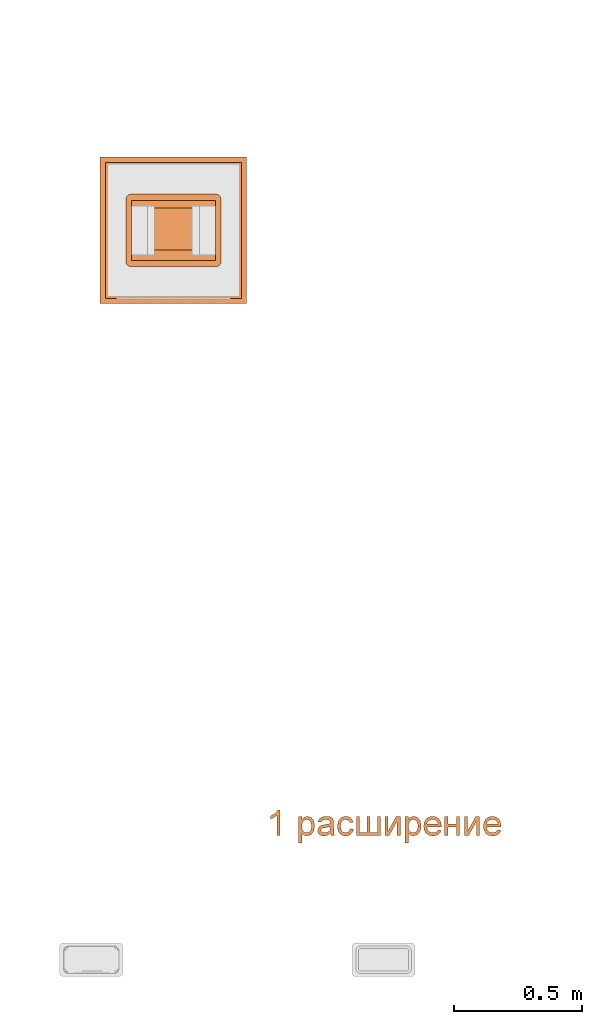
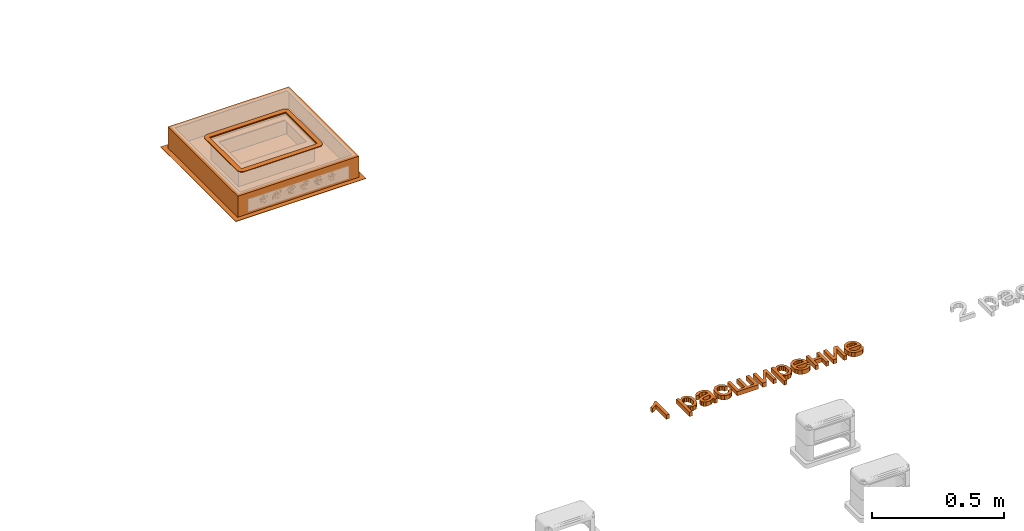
# One storey, part 55 of 87: 3 proxies.
"""IFC2X3 building model written with IfcOpenShell, lengths in millimetres."""

from ifc_helpers import new_model, entity, si_unit, converted_unit, derived_unit, direction, frame, frame_2d, origin, origin_2d_with_axis, place, context, subcontext, project, spatial, polyline, circle_curve, parameter, trimmed, segment, composite_curve, rectangle, outline, extrude, source, transform, mapped, type_object, type_shapes, element, save


model = new_model("IFC2X3")

# Units and contexts
model_context = context("Model", 3, precision=0.01, world=origin(), true_north=direction((6.12303176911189e-17, 1.0)))
body_context = subcontext(model_context, "Body", "Model", "MODEL_VIEW")
ifc_project = project(units=[si_unit("LENGTHUNIT", "METRE", prefix="MILLI"), si_unit("AREAUNIT", "SQUARE_METRE"), si_unit("VOLUMEUNIT", "CUBIC_METRE"), converted_unit("PLANEANGLEUNIT", "DEGREE", entity("IfcRatioMeasure", 0.0174532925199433), si_unit("PLANEANGLEUNIT", "RADIAN"), dimensions=[0, 0, 0, 0, 0, 0, 0]), si_unit("MASSUNIT", "GRAM", prefix="KILO"), derived_unit("MASSDENSITYUNIT", [(si_unit("MASSUNIT", "GRAM", prefix="KILO"), 1), (si_unit("LENGTHUNIT", "METRE"), -3)]), si_unit("TIMEUNIT", "SECOND"), si_unit("FREQUENCYUNIT", "HERTZ"), si_unit("THERMODYNAMICTEMPERATUREUNIT", "DEGREE_CELSIUS"), derived_unit("THERMALTRANSMITTANCEUNIT", [(si_unit("MASSUNIT", "GRAM", prefix="KILO"), 1), (si_unit("THERMODYNAMICTEMPERATUREUNIT", "KELVIN"), -1), (si_unit("TIMEUNIT", "SECOND"), -3)]), derived_unit("VOLUMETRICFLOWRATEUNIT", [(si_unit("LENGTHUNIT", "METRE"), 3), (si_unit("TIMEUNIT", "SECOND"), -1)]), si_unit("ELECTRICCURRENTUNIT", "AMPERE"), si_unit("ELECTRICVOLTAGEUNIT", "VOLT"), si_unit("POWERUNIT", "WATT"), si_unit("FORCEUNIT", "NEWTON", prefix="KILO"), si_unit("ILLUMINANCEUNIT", "LUX"), si_unit("LUMINOUSFLUXUNIT", "LUMEN"), si_unit("LUMINOUSINTENSITYUNIT", "CANDELA"), derived_unit("USERDEFINED", [(si_unit("MASSUNIT", "GRAM", prefix="KILO"), -1), (si_unit("LENGTHUNIT", "METRE"), -2), (si_unit("TIMEUNIT", "SECOND"), 3), (si_unit("LUMINOUSFLUXUNIT", "LUMEN"), 1)]), derived_unit("LINEARVELOCITYUNIT", [(si_unit("LENGTHUNIT", "METRE"), 1), (si_unit("TIMEUNIT", "SECOND"), -1)]), si_unit("PRESSUREUNIT", "PASCAL"), derived_unit("USERDEFINED", [(si_unit("LENGTHUNIT", "METRE"), -2), (si_unit("MASSUNIT", "GRAM", prefix="KILO"), 1), (si_unit("TIMEUNIT", "SECOND"), -2)])], contexts=[model_context])

# Site, building, storey
site_placement = place(None, origin())
site = spatial("IfcSite", under=ifc_project, at=site_placement, Name="Default", CompositionType="ELEMENT")
building_placement = place(site_placement, origin())
building = spatial("IfcBuilding", under=site, at=building_placement, Name="Наименование здания", CompositionType="ELEMENT")
storey_placement = place(building_placement, origin())
storey = spatial("IfcBuildingStorey", under=building, at=storey_placement, Name="Этаж 01", CompositionType="ELEMENT", Elevation=0.0)

# Proxies
building_element_proxy_type_1 = type_object("IfcBuildingElementProxyType", Name="Лючок", PredefinedType="NOTDEFINED")
shared_shape_1 = source(origin(), body_context, "Body", "SweptSolid", [
    extrude(outline(composite_curve([segment(polyline([(-164.597281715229, -119.98320373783), (164.597281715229, -119.98320373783)]), True, "CONTINUOUS"), segment(trimmed(circle_curve(frame_2d((164.597281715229, -117.575646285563), x_axis=(-1.0, 0.0)), 2.40755745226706), [parameter(90.0000000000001)], [parameter(179.999999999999)], True, "PARAMETER"), True, "CONTINUOUS"), segment(polyline([(167.004839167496, -117.575646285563), (167.004839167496, 117.575646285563)]), True, "CONTINUOUS"), segment(trimmed(circle_curve(frame_2d((164.597281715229, 117.575646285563), x_axis=(-1.0, 0.0)), 2.40755745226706), [parameter(180.0)], [parameter(270.0)], True, "PARAMETER"), True, "CONTINUOUS"), segment(polyline([(164.597281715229, 119.98320373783), (-164.597281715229, 119.98320373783)]), True, "CONTINUOUS"), segment(trimmed(circle_curve(frame_2d((-164.597281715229, 117.575646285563), x_axis=(-1.0, 0.0)), 2.40755745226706), [parameter(270.0)], [parameter(359.999999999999)], True, "PARAMETER"), True, "CONTINUOUS"), segment(polyline([(-167.004839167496, 117.575646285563), (-167.004839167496, -117.575646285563)]), True, "CONTINUOUS"), segment(trimmed(circle_curve(frame_2d((-164.597281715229, -117.575646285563), x_axis=(-1.0, 0.0)), 2.40755745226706), [parameter(0.0)], [parameter(90.0000000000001)], True, "PARAMETER"), True, "CONTINUOUS")], self_intersect=False), holes=[composite_curve([segment(trimmed(circle_curve(frame_2d((-161.597281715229, -114.575646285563), x_axis=(-1.0, 0.0)), 2.40755745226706), [parameter(4.07110999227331e-13)], [parameter(90.0000000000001)], True, "PARAMETER"), False, "CONTINUOUS"), segment(polyline([(-164.004839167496, -114.575646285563), (-164.004839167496, 114.575646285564)]), True, "CONTINUOUS"), segment(trimmed(circle_curve(frame_2d((-161.597281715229, 114.575646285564), x_axis=(-1.0, 0.0)), 2.40755745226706), [parameter(269.999999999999)], [parameter(8.14221998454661e-13)], True, "PARAMETER"), False, "CONTINUOUS"), segment(polyline([(-161.597281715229, 116.983203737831), (161.597281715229, 116.983203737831)]), True, "CONTINUOUS"), segment(trimmed(circle_curve(frame_2d((161.597281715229, 114.575646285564), x_axis=(-1.0, 0.0)), 2.40755745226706), [parameter(180.000000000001)], [parameter(270.000000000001)], True, "PARAMETER"), False, "CONTINUOUS"), segment(polyline([(164.004839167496, 114.575646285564), (164.004839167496, -114.575646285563)]), True, "CONTINUOUS"), segment(trimmed(circle_curve(frame_2d((161.597281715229, -114.575646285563), x_axis=(-1.0, 0.0)), 2.40755745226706), [parameter(90.0000000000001)], [parameter(180.0)], True, "PARAMETER"), False, "CONTINUOUS"), segment(polyline([(161.597281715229, -116.98320373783), (-161.597281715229, -116.98320373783)]), True, "CONTINUOUS")], self_intersect=False)]), frame((0.0, 0.0, -10.0), z_axis=(0.0, 0.0, 1.0), x_axis=(-1.0, 0.0, 0.0)), (0.0, 0.0, 1.0), 10.0000000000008),
    extrude(outline(composite_curve([segment(polyline([(-164.597281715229, -105.48320373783), (164.597281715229, -105.48320373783)]), True, "CONTINUOUS"), segment(trimmed(circle_curve(frame_2d((164.597281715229, -103.075646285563), x_axis=(-1.0, 0.0)), 2.40755745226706), [parameter(90.0000000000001)], [parameter(180.0)], True, "PARAMETER"), True, "CONTINUOUS"), segment(polyline([(167.004839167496, -103.075646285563), (167.004839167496, 103.075646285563)]), True, "CONTINUOUS"), segment(trimmed(circle_curve(frame_2d((164.597281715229, 103.075646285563), x_axis=(-1.0, 0.0)), 2.40755745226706), [parameter(180.000000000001)], [parameter(270.000000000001)], True, "PARAMETER"), True, "CONTINUOUS"), segment(polyline([(164.597281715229, 105.48320373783), (-164.597281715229, 105.48320373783)]), True, "CONTINUOUS"), segment(trimmed(circle_curve(frame_2d((-164.597281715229, 103.075646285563), x_axis=(-1.0, 0.0)), 2.40755745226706), [parameter(270.000000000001)], [parameter(360.0)], True, "PARAMETER"), True, "CONTINUOUS"), segment(polyline([(-167.004839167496, 103.075646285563), (-167.004839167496, -103.075646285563)]), True, "CONTINUOUS"), segment(trimmed(circle_curve(frame_2d((-164.597281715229, -103.075646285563), x_axis=(-1.0, 0.0)), 2.40755745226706), [parameter(0.0)], [parameter(90.0000000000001)], True, "PARAMETER"), True, "CONTINUOUS")], self_intersect=False), holes=[composite_curve([segment(trimmed(circle_curve(frame_2d((-161.597281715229, -100.075646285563), x_axis=(-1.0, 0.0)), 2.40755745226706), [parameter(4.07110999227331e-13)], [parameter(90.0000000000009)], True, "PARAMETER"), False, "CONTINUOUS"), segment(polyline([(-164.004839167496, -100.075646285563), (-164.004839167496, 100.075646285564)]), True, "CONTINUOUS"), segment(trimmed(circle_curve(frame_2d((-161.597281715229, 100.075646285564), x_axis=(-1.0, 0.0)), 2.40755745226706), [parameter(269.999999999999)], [parameter(4.07110999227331e-13)], True, "PARAMETER"), False, "CONTINUOUS"), segment(polyline([(-161.597281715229, 102.483203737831), (161.597281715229, 102.48320373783)]), True, "CONTINUOUS"), segment(trimmed(circle_curve(frame_2d((161.597281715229, 100.075646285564), x_axis=(-1.0, 0.0)), 2.40755745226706), [parameter(180.000000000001)], [parameter(270.0)], True, "PARAMETER"), False, "CONTINUOUS"), segment(polyline([(164.004839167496, 100.075646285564), (164.004839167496, -100.075646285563)]), True, "CONTINUOUS"), segment(trimmed(circle_curve(frame_2d((161.597281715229, -100.075646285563), x_axis=(-1.0, 0.0)), 2.40755745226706), [parameter(90.0000000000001)], [parameter(180.0)], True, "PARAMETER"), False, "CONTINUOUS"), segment(polyline([(161.597281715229, -102.48320373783), (-161.597281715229, -102.48320373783)]), True, "CONTINUOUS")], self_intersect=False)]), frame((0.0, 5.49999999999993, -92.5000000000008), z_axis=(0.0, 0.0, 1.0), x_axis=(-1.0, 0.0, 0.0)), (0.0, 0.0, 1.0), 85.5),
    extrude(outline(composite_curve([segment(polyline([(-161.597281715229, -102.483203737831), (161.597281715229, -102.483203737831)]), True, "CONTINUOUS"), segment(trimmed(circle_curve(frame_2d((161.597281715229, -100.075646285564), x_axis=(-1.0, 0.0)), 2.40755745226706), [parameter(90.0000000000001)], [parameter(179.999999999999)], True, "PARAMETER"), True, "CONTINUOUS"), segment(polyline([(164.004839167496, -100.075646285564), (164.004839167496, 100.075646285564)]), True, "CONTINUOUS"), segment(trimmed(circle_curve(frame_2d((161.597281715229, 100.075646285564), x_axis=(-1.0, 0.0)), 2.40755745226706), [parameter(180.000000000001)], [parameter(270.0)], True, "PARAMETER"), True, "CONTINUOUS"), segment(polyline([(161.597281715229, 102.48320373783), (-161.597281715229, 102.483203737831)]), True, "CONTINUOUS"), segment(trimmed(circle_curve(frame_2d((-161.597281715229, 100.075646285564), x_axis=(-1.0, 0.0)), 2.40755745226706), [parameter(270.0)], [parameter(360.0)], True, "PARAMETER"), True, "CONTINUOUS"), segment(polyline([(-164.004839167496, 100.075646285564), (-164.004839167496, -100.075646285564)]), True, "CONTINUOUS"), segment(trimmed(circle_curve(frame_2d((-161.597281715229, -100.075646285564), x_axis=(-1.0, 0.0)), 2.40755745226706), [parameter(0.0)], [parameter(90.0000000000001)], True, "PARAMETER"), True, "CONTINUOUS")], self_intersect=False)), frame((0.0, 5.49999999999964, -92.5000000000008), z_axis=(0.0, 0.0, 1.0), x_axis=(-1.0, 0.0, 0.0)), (0.0, 0.0, 1.0), 2.99999999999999),
    extrude(outline(composite_curve([segment(polyline([(-164.004839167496, -141.48320373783), (164.004839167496, -141.48320373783)]), True, "CONTINUOUS"), segment(trimmed(circle_curve(frame_2d((164.004839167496, -119.98320373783), x_axis=(-1.0, 0.0)), 21.4999999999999), [parameter(90.0000000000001)], [parameter(180.0)], True, "PARAMETER"), True, "CONTINUOUS"), segment(polyline([(185.504839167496, -119.98320373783), (185.504839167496, 119.983203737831)]), True, "CONTINUOUS"), segment(trimmed(circle_curve(frame_2d((164.004839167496, 119.98320373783), x_axis=(-1.0, 0.0)), 21.4999999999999), [parameter(180.0)], [parameter(270.0)], True, "PARAMETER"), True, "CONTINUOUS"), segment(polyline([(164.004839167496, 141.48320373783), (-164.004839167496, 141.48320373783)]), True, "CONTINUOUS"), segment(trimmed(circle_curve(frame_2d((-164.004839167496, 119.98320373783), x_axis=(-1.0, 0.0)), 21.4999999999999), [parameter(270.0)], [parameter(360.0)], True, "PARAMETER"), True, "CONTINUOUS"), segment(polyline([(-185.504839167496, 119.98320373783), (-185.504839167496, -119.983203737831)]), True, "CONTINUOUS"), segment(trimmed(circle_curve(frame_2d((-164.004839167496, -119.98320373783), x_axis=(-1.0, 0.0)), 21.4999999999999), [parameter(0.0)], [parameter(90.0)], True, "PARAMETER"), True, "CONTINUOUS")], self_intersect=False), holes=[polyline([(-166.004839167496, -119.98320373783), (-166.004839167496, 119.98320373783), (166.004839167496, 119.98320373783), (166.004839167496, -119.98320373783), (-166.004839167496, -119.98320373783)])]), frame((0.0, 0.0, 0.0), z_axis=(0.0, 0.0, 1.0), x_axis=(-1.0, 0.0, 0.0)), (0.0, 0.0, 1.0), 2.99999999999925),
    extrude(outline(composite_curve([segment(polyline([(-161.597281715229, -116.98320373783), (161.597281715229, -116.98320373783)]), True, "CONTINUOUS"), segment(trimmed(circle_curve(frame_2d((161.597281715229, -114.575646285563), x_axis=(-1.0, 0.0)), 2.40755745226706), [parameter(89.9999999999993)], [parameter(180.0)], True, "PARAMETER"), True, "CONTINUOUS"), segment(polyline([(164.004839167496, -114.575646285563), (164.004839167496, 114.575646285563)]), True, "CONTINUOUS"), segment(trimmed(circle_curve(frame_2d((161.597281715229, 114.575646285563), x_axis=(-1.0, 0.0)), 2.40755745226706), [parameter(180.0)], [parameter(269.999999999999)], True, "PARAMETER"), True, "CONTINUOUS"), segment(polyline([(161.597281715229, 116.98320373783), (-161.597281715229, 116.98320373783)]), True, "CONTINUOUS"), segment(trimmed(circle_curve(frame_2d((-161.597281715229, 114.575646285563), x_axis=(-1.0, 0.0)), 2.40755745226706), [parameter(269.999999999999)], [parameter(360.0)], True, "PARAMETER"), True, "CONTINUOUS"), segment(polyline([(-164.004839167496, 114.575646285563), (-164.004839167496, -114.575646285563)]), True, "CONTINUOUS"), segment(trimmed(circle_curve(frame_2d((-161.597281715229, -114.575646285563), x_axis=(-1.0, 0.0)), 2.40755745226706), [parameter(0.0)], [parameter(90.0000000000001)], True, "PARAMETER"), True, "CONTINUOUS")], self_intersect=False), holes=[polyline([(-144.004839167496, -87.9832037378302), (-144.004839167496, 76.9832037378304), (144.004839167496, 76.9832037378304), (144.004839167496, -87.9832037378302), (-144.004839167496, -87.9832037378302)])]), frame((0.0, 0.0, -10.0), z_axis=(0.0, 0.0, 1.0), x_axis=(-1.0, 0.0, 0.0)), (0.0, 0.0, 1.0), 3.00000000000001),
])
type_shapes(building_element_proxy_type_1, [shared_shape_1])
proxy_1_placement = place(storey_placement, frame((25863.7191062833, 3878.38645848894, 0.0)))
element("IfcBuildingElementProxy", 1, at=proxy_1_placement, inside=storey, type_object=building_element_proxy_type_1, Name="КНС_ЛючокНапольныйНа12Модулей_ILF_DKC:Лючок", ObjectType="Лючок", context=body_context, shape_type="MappedRepresentation", body=[
    mapped(shared_shape_1, transform((0.0, 0.0, 0.0), scale=1.0)),
])
building_element_proxy_type_2 = type_object("IfcBuildingElementProxyType", Name="Опалубка для лючков металлическая", PredefinedType="NOTDEFINED")
shared_shape_2 = source(origin(), body_context, "Body", "SweptSolid", [
    extrude(outline(polyline([(-265.0, -265.0), (265.0, -265.0), (265.0, 265.0), (-265.0, 265.0), (-265.0, -265.0)]), holes=[polyline([(-245.0, -245.0), (-245.0, 245.0), (245.0, 245.0), (245.0, -245.0), (-245.0, -245.0)])]), frame((0.0, 0.0, 98.4999999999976), z_axis=(0.0, 0.0, 1.0), x_axis=(-1.0, 0.0, 0.0)), (0.0, 0.0, 1.0), 0.999999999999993),
    extrude(outline(polyline([(-265.0, -265.0), (265.0, -265.0), (265.0, 265.0), (-265.0, 265.0), (-265.0, -265.0)]), holes=[polyline([(-264.0, -264.0), (-264.0, 264.0), (264.0, 264.0), (264.0, -264.0), (-264.0, -264.0)])]), frame((0.0, 0.0, 2.0), z_axis=(0.0, 0.0, 1.0), x_axis=(-1.0, 0.0, 0.0)), (0.0, 0.0, 1.0), 97.4999999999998),
    extrude(rectangle(XDim=570.000000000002, YDim=570.000000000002, at=origin_2d_with_axis()), frame((0.0, 0.0, 0.0), z_axis=(0.0, 0.0, 1.0), x_axis=(-1.0, 0.0, 0.0)), (0.0, 0.0, 1.0), 1.99999999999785),
])
type_shapes(building_element_proxy_type_2, [shared_shape_2])
proxy_2_placement = place(storey_placement, frame((25863.7191062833, 3878.38645848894, -101.499999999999)))
element("IfcBuildingElementProxy", 2, at=proxy_2_placement, inside=storey, type_object=building_element_proxy_type_2, Name="Опалубка для лючков металлическая:Опалубка для лючков металлическая", ObjectType="Опалубка для лючков металлическая", context=body_context, shape_type="MappedRepresentation", body=[
    mapped(shared_shape_2, transform((0.0, 0.0, 0.0), scale=1.0)),
])
proxy_3_placement = place(storey_placement, origin())
element("IfcBuildingElementProxy", 3, at=proxy_3_placement, inside=storey, Name="Текст модели:100 мм Arial", ObjectType="Текст модели:100 мм Arial", context=body_context, shape_type="SweptSolid", body=[
    extrude(outline(polyline([(-63.8793021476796, -16.918484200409), (36.5770080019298, -16.918484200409), (36.5770080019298, -8.82508030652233), (23.2106288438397, 2.34626961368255), (11.4629304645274, 20.7526321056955), (-0.407395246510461, 20.7526321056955), (5.93243780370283, 7.53340574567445), (14.4059864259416, -4.36144543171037), (-63.8793021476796, -4.36144543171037), (-63.8793021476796, -16.918484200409)])), frame((26261.7342111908, 1587.25547681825, 0.0), z_axis=(0.0, 0.0, 1.0), x_axis=(0.0, 1.0, 0.0)), (0.0, 0.0, 1.0), 20.0),
    extrude(outline(polyline([(-28.8983569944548, -61.2335493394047), (-16.3413182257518, -61.2335493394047), (-16.3413182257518, -23.1700255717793), (-8.38280439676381, -31.3247431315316), (2.54329085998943, -34.5498419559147), (18.4235303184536, -29.7305878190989), (29.9259740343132, -15.8736993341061), (33.8868368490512, 4.47017499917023), (30.3796951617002, 23.8207679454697), (19.9808974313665, 37.5059781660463), (4.0638697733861, 42.3620205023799), (-7.65930313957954, 38.8916670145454), (-16.3413182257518, 28.4806065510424), (-16.3413182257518, 40.7923906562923), (-28.8983569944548, 40.7923906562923), (-28.8983569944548, -61.2335493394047)]), holes=[polyline([(-16.3413182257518, 3.31747808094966), (-14.8912500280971, 14.7064915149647), (-10.541045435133, 23.0236902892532), (-4.30851130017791, 28.1096588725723), (2.78854552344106, 29.8049817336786), (9.85801119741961, 28.210826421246), (15.8606190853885, 23.4283604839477), (19.9625033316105, 15.4453211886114), (21.3297980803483, 4.24944580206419), (19.9287808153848, -7.43080754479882), (15.7257290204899, -15.5916564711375), (9.56063991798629, -20.3925165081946), (2.2735107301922, -21.9928031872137), (-4.89712249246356, -20.4476988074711), (-10.9089274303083, -15.8123856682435), (-14.9832205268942, -7.9397109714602), (-16.3413182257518, 3.31747808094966)])]), frame((26379.7540253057, 1556.3563867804, 0.0)), (0.0, 0.0, 1.0), 20.0),
    extrude(outline(polyline([(32.0508237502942, 7.88266535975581), (41.9780345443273, 7.88266535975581), (45.9489188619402, 19.7953183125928), (35.1414436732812, 20.7608946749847), (14.243889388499, 27.0545912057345), (-0.577126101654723, 31.9949297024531), (-11.1945882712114, 34.8877809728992), (-20.4974705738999, 33.9299602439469), (-28.5323068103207, 27.5470739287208), (-35.4619652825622, 13.8157249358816), (-38.3044049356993, -2.69989645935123), (-34.9462156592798, -15.349334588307), (-25.0306383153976, -24.3807697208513), (-19.5706723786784, -12.9644773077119), (-25.7868125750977, -4.50695904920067), (-24.0611841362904, 8.30922519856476), (-16.2279943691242, 20.3304570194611), (-6.3395617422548, 20.6794605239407), (-3.71040200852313, 19.7255176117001), (-6.50243004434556, -2.30048133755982), (-8.14662433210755, -13.2049019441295), (-7.01817966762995, -22.849032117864), (-2.17478658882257, -31.1204151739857), (6.48825595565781, -36.5416029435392), (15.0010331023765, -37.7020395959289), (22.949587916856, -35.3200906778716), (29.6378522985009, -29.3899394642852), (34.3697581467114, -19.9057692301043), (36.2737661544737, -6.36055543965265), (32.0508237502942, 7.88266535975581)]), holes=[polyline([(8.22551784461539, 15.8244339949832), (11.5759514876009, 14.6300664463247), (20.1614376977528, 9.67421668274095), (24.4696920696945, -0.396473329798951), (23.3024692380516, -13.3987927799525), (17.2491973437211, -22.9498553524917), (9.62153186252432, -24.34974718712), (5.58084684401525, -21.1932043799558), (3.9870641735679, -15.5044472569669), (5.47226797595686, -4.61166010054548), (8.22551784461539, 15.8244339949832)])]), frame((26457.2429127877, 1560.70731727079, 0.0), z_axis=(0.0, 0.0, 1.0), x_axis=(0.316227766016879, -0.9486832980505, 0.0)), (0.0, 0.0, 1.0), 20.0),
    extrude(outline(polyline([(0.267683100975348, -20.7200562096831), (-4.02278247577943, -32.6253015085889), (7.51957889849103, -34.5647704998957), (18.024291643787, -32.5240986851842), (26.8500141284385, -26.8719753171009), (33.3554047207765, -17.977089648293), (37.2076783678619, -4.95154901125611), (35.3403176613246, 7.71415747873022), (27.6846262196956, 19.167693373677), (14.1719076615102, 28.5567222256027), (-6.16200624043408, 34.5864889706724), (-23.4110955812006, 30.2307841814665), (-35.1302422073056, 17.0254849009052), (-38.5714296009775, 6.87231136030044), (-38.3156698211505, -2.77330902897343), (-34.4593562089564, -11.5597521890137), (-27.0988821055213, -19.1353940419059), (-20.0099089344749, -8.65257858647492), (-25.7552259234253, 0.801697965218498), (-23.9806627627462, 11.2483121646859), (-18.9208808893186, 17.779464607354), (-11.8538304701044, 21.4126833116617), (-2.81100512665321, 21.5312059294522), (8.17610151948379, 17.5182701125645), (18.0468481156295, 10.9639331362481), (23.3470531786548, 3.65828147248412), (24.6053297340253, -4.0758667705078), (22.3502908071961, -11.9156934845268), (13.5558525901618, -20.7200562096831), (0.267683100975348, -20.7200562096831)])), frame((26533.4185884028, 1559.68697330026, 0.0), z_axis=(0.0, 0.0, -1.0), x_axis=(-0.453109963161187, -0.891454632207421, 0.0)), (0.0, 0.0, -1.0), 20.0),
    extrude(outline(polyline([(-32.7006217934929, -47.088895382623), (41.0719809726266, -47.088895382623), (41.0719809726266, 47.088895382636), (-32.7006217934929, 47.088895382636), (-32.7006217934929, 34.5318566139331), (28.5149422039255, 34.5318566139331), (28.5149422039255, 6.2785193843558), (-32.7006217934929, 6.2785193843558), (-32.7006217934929, -6.27851938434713), (28.5149422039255, -6.27851938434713), (28.5149422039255, -34.5318566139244), (-32.7006217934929, -34.5318566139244), (-32.7006217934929, -47.088895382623)])), frame((26622.4016316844, 1564.4481556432, 0.0), z_axis=(0.0, 0.0, 1.0), x_axis=(0.0, -1.0, 0.0)), (0.0, 0.0, 1.0), 20.0),
    extrude(outline(polyline([(-36.9206370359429, -29.8425874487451), (36.8519657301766, -29.8425874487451), (36.8519657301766, -13.4105249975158), (-19.0660975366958, 17.2463079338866), (36.8519657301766, 17.2463079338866), (36.8519657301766, 29.8033467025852), (-36.9206370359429, 29.8033467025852), (-36.9206370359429, 13.5674879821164), (19.3407827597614, -17.2855486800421), (-36.9206370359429, -17.2855486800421), (-36.9206370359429, -29.8425874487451)])), frame((26716.5990428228, 1560.22814040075, 0.0), z_axis=(0.0, 0.0, 1.0), x_axis=(0.0, -1.0, 0.0)), (0.0, 0.0, 1.0), 20.0),
    extrude(outline(polyline([(-28.8983569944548, -61.2335493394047), (-16.3413182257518, -61.2335493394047), (-16.3413182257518, -23.1700255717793), (-8.38280439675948, -31.3247431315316), (2.54329085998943, -34.5498419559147), (18.4235303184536, -29.7305878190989), (29.9259740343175, -15.8736993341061), (33.8868368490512, 4.47017499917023), (30.3796951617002, 23.8207679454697), (19.9808974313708, 37.5059781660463), (4.0638697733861, 42.3620205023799), (-7.65930313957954, 38.8916670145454), (-16.3413182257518, 28.4806065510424), (-16.3413182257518, 40.7923906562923), (-28.8983569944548, 40.7923906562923), (-28.8983569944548, -61.2335493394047)]), holes=[polyline([(-16.3413182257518, 3.31747808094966), (-14.8912500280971, 14.7064915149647), (-10.5410454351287, 23.0236902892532), (-4.30851130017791, 28.1096588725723), (2.78854552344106, 29.8049817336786), (9.85801119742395, 28.210826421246), (15.8606190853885, 23.4283604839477), (19.9625033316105, 15.4453211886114), (21.3297980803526, 4.24944580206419), (19.9287808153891, -7.43080754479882), (15.7257290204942, -15.5916564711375), (9.56063991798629, -20.3925165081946), (2.2735107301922, -21.9928031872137), (-4.89712249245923, -20.4476988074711), (-10.9089274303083, -15.8123856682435), (-14.9832205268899, -7.9397109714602), (-16.3413182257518, 3.31747808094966)])]), frame((26794.1363046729, 1556.3563867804, 0.0)), (0.0, 0.0, 1.0), 20.0),
    extrude(outline(polyline([(-8.10128238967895, -20.3751729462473), (-15.5352214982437, -30.3140016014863), (-5.78400372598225, -33.5775071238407), (4.12185089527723, -33.3132173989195), (13.8776168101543, -29.4480778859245), (23.1785684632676, -21.9090340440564), (31.6380426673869, -9.59237957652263), (34.1620486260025, 3.7413532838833), (30.6040508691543, 17.2442201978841), (20.8175139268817, 30.0682768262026), (7.27698270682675, 39.7846728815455), (-6.6617952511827, 43.1117813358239), (-19.9642596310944, 40.4221234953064), (-31.5958501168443, 32.0882206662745), (-39.2435519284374, 20.5090048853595), (-41.3106827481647, 7.34319797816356), (-37.437370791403, -6.34962495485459), (-27.2637442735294, -19.5098888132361), (-24.780458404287, -21.8106804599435), (14.4643272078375, 18.7422646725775), (19.7071986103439, 10.643799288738), (21.1614672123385, 2.21005051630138), (19.1472085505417, -5.9813675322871), (13.9844981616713, -13.3528407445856), (3.53684605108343, -20.3751729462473), (-8.10128238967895, -20.3751729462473)]), holes=[polyline([(5.44081225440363, 27.4746984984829), (-25.1227061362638, -4.10760383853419), (-29.8038819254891, 7.4190951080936), (-27.8851342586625, 15.7498710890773), (-22.5382240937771, 23.3910349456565), (-8.40970331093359, 31.2368652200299), (-1.08072680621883, 30.9147288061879), (5.44081225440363, 27.4746984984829)])]), frame((26873.5249939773, 1553.69872549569, 0.0), z_axis=(0.0, 0.0, -1.0), x_axis=(-0.695421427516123, -0.718602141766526, 0.0)), (0.0, 0.0, -1.0), 20.0),
    extrude(outline(polyline([(-36.1014864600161, -29.0381521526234), (37.6711163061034, -29.0381521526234), (37.6711163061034, -16.4811133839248), (4.70888953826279, -16.4811133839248), (4.70888953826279, 16.4811133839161), (37.6711163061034, 16.4811133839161), (37.6711163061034, 29.038152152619), (-36.1014864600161, 29.038152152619), (-36.1014864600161, 16.4811133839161), (-7.84814923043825, 16.4811133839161), (-7.84814923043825, -16.4811133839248), (-36.1014864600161, -16.4811133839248), (-36.1014864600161, -29.0381521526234)])), frame((26948.0998247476, 1561.04729097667, 0.0), z_axis=(0.0, 0.0, 1.0), x_axis=(0.0, -1.0, 0.0)), (0.0, 0.0, 1.0), 20.0),
    extrude(outline(polyline([(-36.9206370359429, -29.8425874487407), (36.8519657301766, -29.8425874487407), (36.8519657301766, -13.4105249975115), (-19.0660975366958, 17.2463079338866), (36.8519657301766, 17.2463079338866), (36.8519657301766, 29.8033467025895), (-36.9206370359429, 29.8033467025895), (-36.9206370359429, 13.5674879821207), (19.3407827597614, -17.2855486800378), (-36.9206370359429, -17.2855486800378), (-36.9206370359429, -29.8425874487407)])), frame((27025.816122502, 1560.22814040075, 0.0), z_axis=(0.0, 0.0, 1.0), x_axis=(0.0, -1.0, 0.0)), (0.0, 0.0, 1.0), 20.0),
    extrude(outline(polyline([(-8.10128238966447, -20.3751729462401), (-15.5352214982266, -30.3140016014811), (-5.78400372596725, -33.577507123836), (4.12185089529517, -33.3132173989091), (13.8776168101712, -29.4480778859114), (23.1785684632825, -21.9090340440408), (31.6380426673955, -9.59237957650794), (34.1620486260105, 3.74135328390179), (30.6040508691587, 17.2442201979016), (20.8175139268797, 30.0682768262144), (7.27698270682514, 39.7846728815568), (-6.6617952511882, 43.1117813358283), (-19.9642596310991, 40.4221234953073), (-31.5958501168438, 32.0882206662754), (-39.2435519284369, 20.5090048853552), (-41.3106827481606, 7.34319797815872), (-37.4373707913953, -6.34962495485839), (-27.2637442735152, -19.5098888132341), (-24.7804584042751, -21.8106804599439), (14.4643272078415, 18.7422646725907), (19.7071986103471, 10.6437992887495), (21.161467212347, 2.21005051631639), (19.1472085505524, -5.98136753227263), (13.9844981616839, -13.3528407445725), (3.53684605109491, -20.3751729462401), (-8.10128238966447, -20.3751729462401)]), holes=[polyline([(5.44081225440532, 27.4746984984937), (-25.1227061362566, -4.10760383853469), (-29.803881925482, 7.41909510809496), (-27.8851342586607, 15.7498710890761), (-22.5382240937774, 23.3910349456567), (-8.40970331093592, 31.2368652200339), (-1.08072680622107, 30.9147288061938), (5.44081225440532, 27.4746984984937)])]), frame((27105.8302111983, 1553.69872549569, 0.0), z_axis=(0.0, 0.0, -1.0), x_axis=(-0.695421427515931, -0.718602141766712, 0.0)), (0.0, 0.0, -1.0), 20.0),
])

save(model, "model.ifc")
